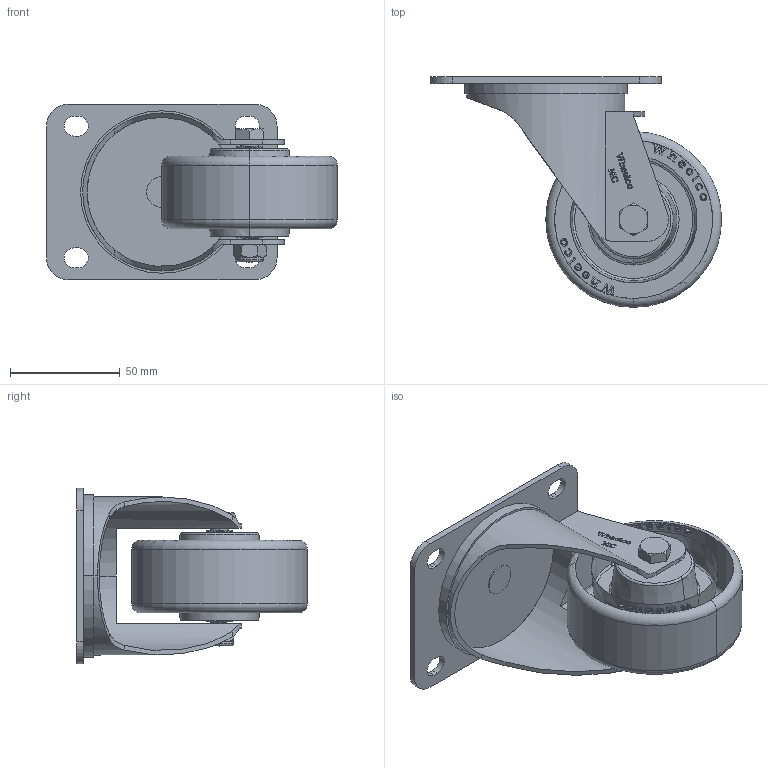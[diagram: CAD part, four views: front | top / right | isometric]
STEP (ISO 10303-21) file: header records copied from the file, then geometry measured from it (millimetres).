
FILE_DESCRIPTION (( 'STEP AP214' ), '1' );
FILE_NAME ('MCU80-P.step', '2023-11-29T20:29:40', ( '' ), ( '' ), 'SwSTEP 2.0', 'SolidWorks 2022', '' );
FILE_SCHEMA (( 'AUTOMOTIVE_DESIGN' ));
Length unit declared in the file: millimetre
Products named in the file (7): M8x55; MCU80-P; MCU80; MC 105x80 Swivel Plate; SP12-8-41; MC80-P; M8Nyloc
Assembly tree (6 placements, depth 2):
  MCU80-P
    MC80-P
    M8Nyloc
    M8x55
    SP12-8-41
    MC 105x80 Swivel Plate
    MCU80
Bounding box: 132.5 x 105 x 80 mm (x, y, z)
Volume: 188278.7 mm3; surface area: 75987.4 mm2
Topology: 6 solids, 6 shells, 648 faces, 1750 edges, 1157 vertices
Faces by surface type: plane 316, bspline 168, cylinder 118, cone 28, torus 16, sphere 2
Entity records: 34680 total; most frequent: CARTESIAN_POINT 19172, ORIENTED_EDGE 3500, DIRECTION 2396, EDGE_CURVE 1750, VERTEX_POINT 1157, VECTOR 1060, LINE 1060, EDGE_LOOP 709
